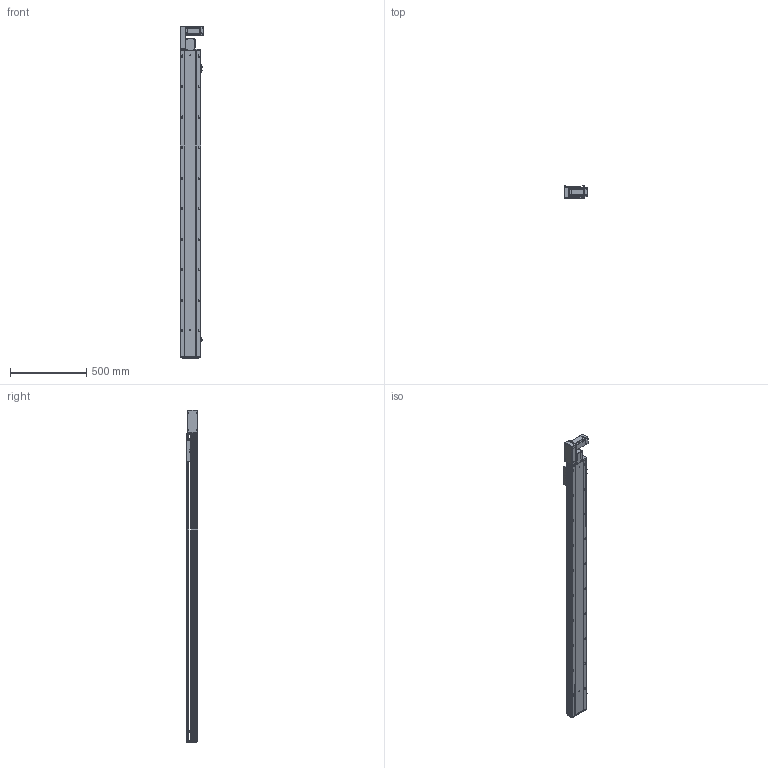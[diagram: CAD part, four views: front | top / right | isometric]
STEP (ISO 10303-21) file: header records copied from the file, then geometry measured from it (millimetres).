
FILE_DESCRIPTION (( 'STEP AP203' ), '1' );
FILE_NAME ('RY140-T-300-LK.SLDASM_1750.step', '2021-03-01T06:36:39', ( '盈信电脑' ), ( '东莞市道滘镇水果街19号' ), 'SwSTEP 2.0', 'SolidWorks 2012', '' );
FILE_SCHEMA (( 'CONFIG_CONTROL_DESIGN' ));
Products named in the file (18): RY140-T-300-LK.SLDASM_1750; RY140-T翋肮謫裔啣; RY140-T萇儂欶; RY120-T蹟翐M4; 滅袉蝶18-10; 侂狟400W侜督萇儂; 15; RY120-T主同步轮轴承压盖; RY140-T萇儂假蚾啣; RY120-T肮祭湍揤踡輸1; RY140-T翋肮祭謫盓傅釱; RY120-T肮祭湍揤踡輸2; RY120外置感应片(140共用）; RY140-T-300-DL倰第奻裔啣_1750; 覜茼ん672; RY140綴裔啣; RY140肮祭謫臏賑輸; RY140-T-300-DL倰第菁釱_1750
Assembly tree (23 placements, depth 3):
  RY140-T-300-LK.SLDASM_1750
    RY140-T-300-DL倰第菁釱_1750
    RY140肮祭謫臏賑輸
    RY140-T-300-DL倰第奻裔啣_1750
    RY140綴裔啣
    覜茼ん672  x3
    RY120外置感应片(140共用）
    RY120-T肮祭湍揤踡輸2
    RY120-T肮祭湍揤踡輸1
    RY140-T翋肮祭謫盓傅釱
    RY140-T萇儂假蚾啣
    侂狟400W侜督萇儂
      15
    RY120-T主同步轮轴承压盖
    RY120-T蹟翐M4  x4
    RY140-T萇儂欶
    滅袉蝶18-10  x2
    RY140-T翋肮謫裔啣
Bounding box: 157 x 78 x 2176.5 mm (x, y, z)
Volume: 5791509.1 mm3; surface area: 2256706.2 mm2
Topology: 22 solids, 22 shells, 2823 faces, 7737 edges, 4928 vertices
Faces by surface type: plane 1381, cylinder 1068, cone 274, bspline 100
Entity records: 89129 total; most frequent: CARTESIAN_POINT 21619, ORIENTED_EDGE 13850, DIRECTION 13253, EDGE_CURVE 6925, VERTEX_POINT 4527, AXIS2_PLACEMENT_3D 4444, LINE 4365, VECTOR 4365
